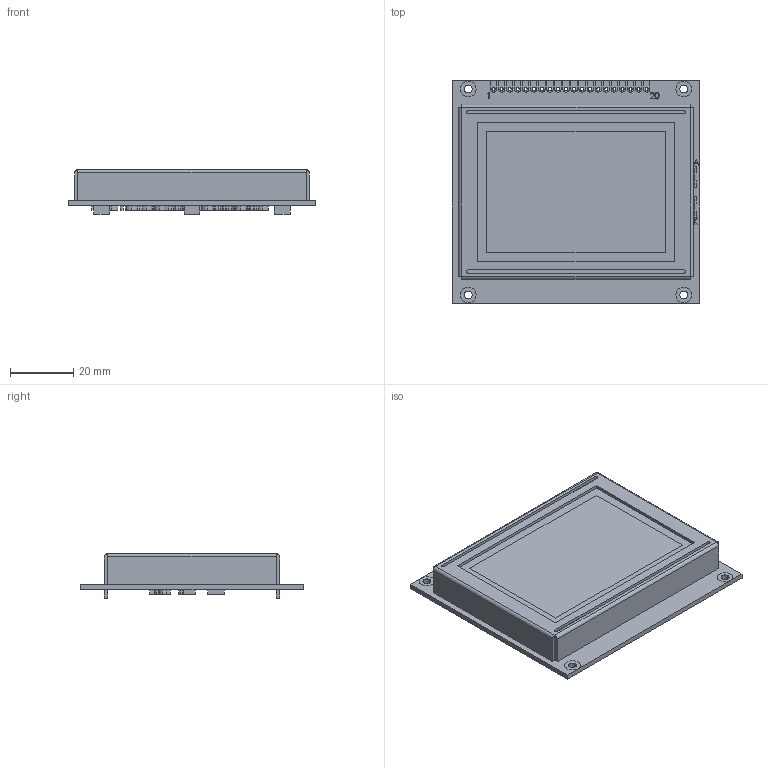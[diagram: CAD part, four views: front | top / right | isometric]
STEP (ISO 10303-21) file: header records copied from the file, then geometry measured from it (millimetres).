
FILE_DESCRIPTION (( 'STEP AP214' ), '1' );
FILE_NAME ('CFAG12864D1-YYH-TZ.STEP', '2022-11-07T22:35:19', ( '' ), ( '' ), 'SwSTEP 2.0', 'SolidWorks 2021', '' );
FILE_SCHEMA (( 'AUTOMOTIVE_DESIGN' ));
Length unit declared in the file: millimetre
Products named in the file (1): CFAG12864D1-YYH-TZ
Bounding box: 78 x 70 x 14 mm (x, y, z)
Volume: 46116.9 mm3; surface area: 24802.7 mm2
Topology: 39 solids, 39 shells, 870 faces, 2210 edges, 1472 vertices
Faces by surface type: plane 482, bspline 238, cylinder 150
Entity records: 48265 total; most frequent: CARTESIAN_POINT 18727, ORIENTED_EDGE 4420, DIRECTION 3300, EDGE_CURVE 2210, VERTEX_POINT 1472, LINE 1434, VECTOR 1434, EDGE_LOOP 1040
